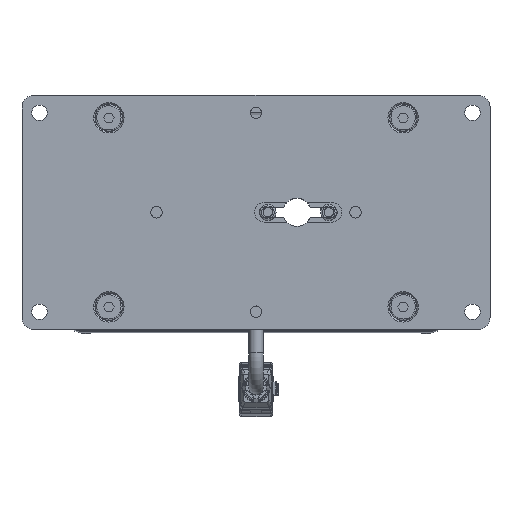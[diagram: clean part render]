
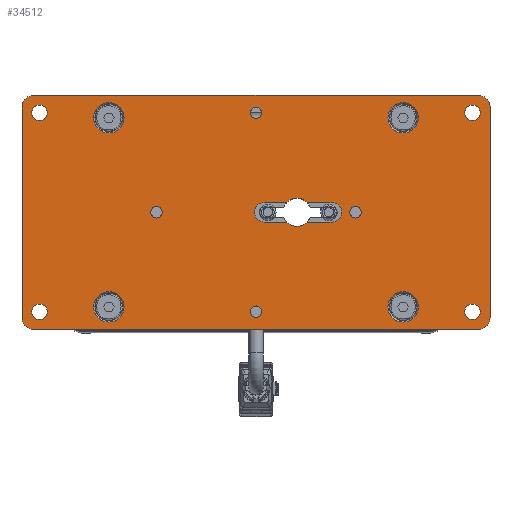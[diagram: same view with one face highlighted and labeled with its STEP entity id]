
A CAD part, top view. The second image highlights one B-rep face of the part: STEP entity #34512.
In plain terms, the highlighted planar face has unit normal (0, 0, 1).
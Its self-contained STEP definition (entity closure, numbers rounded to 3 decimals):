
#1287=LINE('',#47158,#3759);
#1288=LINE('',#47162,#3760);
#1289=LINE('',#47166,#3761);
#1290=LINE('',#47170,#3762);
#1291=LINE('',#47171,#3763);
#1292=LINE('',#47176,#3764);
#1293=LINE('',#47180,#3765);
#1294=LINE('',#47181,#3766);
#3759=VECTOR('',#39393,1000.);
#3760=VECTOR('',#39396,1000.);
#3761=VECTOR('',#39399,1000.);
#3762=VECTOR('',#39402,1000.);
#3763=VECTOR('',#39403,1000.);
#3764=VECTOR('',#39406,1000.);
#3765=VECTOR('',#39409,1000.);
#3766=VECTOR('',#39410,1000.);
#6711=ORIENTED_EDGE('',*,*,#14155,.F.);
#6712=ORIENTED_EDGE('',*,*,#14156,.F.);
#6713=ORIENTED_EDGE('',*,*,#14157,.F.);
#6714=ORIENTED_EDGE('',*,*,#14158,.F.);
#6715=ORIENTED_EDGE('',*,*,#14159,.T.);
#6716=ORIENTED_EDGE('',*,*,#14160,.T.);
#6717=ORIENTED_EDGE('',*,*,#14161,.T.);
#6718=ORIENTED_EDGE('',*,*,#14162,.T.);
#6719=ORIENTED_EDGE('',*,*,#14163,.F.);
#6720=ORIENTED_EDGE('',*,*,#14164,.F.);
#6721=ORIENTED_EDGE('',*,*,#14165,.F.);
#6722=ORIENTED_EDGE('',*,*,#14166,.F.);
#6723=ORIENTED_EDGE('',*,*,#14167,.T.);
#6724=ORIENTED_EDGE('',*,*,#14168,.T.);
#6725=ORIENTED_EDGE('',*,*,#14169,.T.);
#6726=ORIENTED_EDGE('',*,*,#14170,.T.);
#6727=ORIENTED_EDGE('',*,*,#14171,.T.);
#6728=ORIENTED_EDGE('',*,*,#14172,.T.);
#6729=ORIENTED_EDGE('',*,*,#14173,.T.);
#6730=ORIENTED_EDGE('',*,*,#14174,.T.);
#6731=ORIENTED_EDGE('',*,*,#14175,.F.);
#6732=ORIENTED_EDGE('',*,*,#14176,.T.);
#6733=ORIENTED_EDGE('',*,*,#14177,.F.);
#6734=ORIENTED_EDGE('',*,*,#14178,.T.);
#6735=ORIENTED_EDGE('',*,*,#14179,.T.);
#6736=ORIENTED_EDGE('',*,*,#14148,.T.);
#6737=ORIENTED_EDGE('',*,*,#14180,.T.);
#6738=ORIENTED_EDGE('',*,*,#14181,.T.);
#14148=EDGE_CURVE('',#17939,#17937,#20417,.T.);
#14155=EDGE_CURVE('',#17945,#17945,#20421,.T.);
#14156=EDGE_CURVE('',#17946,#17946,#20422,.T.);
#14157=EDGE_CURVE('',#17947,#17947,#20423,.T.);
#14158=EDGE_CURVE('',#17948,#17948,#20424,.T.);
#14159=EDGE_CURVE('',#17949,#17949,#20425,.T.);
#14160=EDGE_CURVE('',#17950,#17950,#20426,.T.);
#14161=EDGE_CURVE('',#17951,#17951,#20427,.T.);
#14162=EDGE_CURVE('',#17952,#17952,#20428,.T.);
#14163=EDGE_CURVE('',#17953,#17953,#20429,.T.);
#14164=EDGE_CURVE('',#17954,#17954,#20430,.T.);
#14165=EDGE_CURVE('',#17955,#17955,#20431,.T.);
#14166=EDGE_CURVE('',#17956,#17956,#20432,.T.);
#14167=EDGE_CURVE('',#17957,#17958,#20433,.T.);
#14168=EDGE_CURVE('',#17958,#17959,#1287,.T.);
#14169=EDGE_CURVE('',#17959,#17960,#20434,.T.);
#14170=EDGE_CURVE('',#17960,#17961,#1288,.T.);
#14171=EDGE_CURVE('',#17961,#17962,#20435,.T.);
#14172=EDGE_CURVE('',#17962,#17963,#1289,.T.);
#14173=EDGE_CURVE('',#17963,#17964,#20436,.T.);
#14174=EDGE_CURVE('',#17964,#17957,#1290,.T.);
#14175=EDGE_CURVE('',#17965,#17966,#1291,.T.);
#14176=EDGE_CURVE('',#17965,#17967,#20437,.T.);
#14177=EDGE_CURVE('',#17968,#17967,#1292,.T.);
#14178=EDGE_CURVE('',#17968,#17969,#20438,.T.);
#14179=EDGE_CURVE('',#17969,#17939,#1293,.T.);
#14180=EDGE_CURVE('',#17937,#17970,#1294,.T.);
#14181=EDGE_CURVE('',#17970,#17966,#20439,.T.);
#17937=VERTEX_POINT('',#47115);
#17939=VERTEX_POINT('',#47118);
#17945=VERTEX_POINT('',#47132);
#17946=VERTEX_POINT('',#47134);
#17947=VERTEX_POINT('',#47136);
#17948=VERTEX_POINT('',#47138);
#17949=VERTEX_POINT('',#47140);
#17950=VERTEX_POINT('',#47142);
#17951=VERTEX_POINT('',#47144);
#17952=VERTEX_POINT('',#47146);
#17953=VERTEX_POINT('',#47148);
#17954=VERTEX_POINT('',#47150);
#17955=VERTEX_POINT('',#47152);
#17956=VERTEX_POINT('',#47154);
#17957=VERTEX_POINT('',#47156);
#17958=VERTEX_POINT('',#47157);
#17959=VERTEX_POINT('',#47159);
#17960=VERTEX_POINT('',#47161);
#17961=VERTEX_POINT('',#47163);
#17962=VERTEX_POINT('',#47165);
#17963=VERTEX_POINT('',#47167);
#17964=VERTEX_POINT('',#47169);
#17965=VERTEX_POINT('',#47172);
#17966=VERTEX_POINT('',#47173);
#17967=VERTEX_POINT('',#47175);
#17968=VERTEX_POINT('',#47177);
#17969=VERTEX_POINT('',#47179);
#17970=VERTEX_POINT('',#47182);
#20417=CIRCLE('',#36206,6.);
#20421=CIRCLE('',#36211,2.459);
#20422=CIRCLE('',#36212,2.459);
#20423=CIRCLE('',#36213,2.459);
#20424=CIRCLE('',#36214,2.459);
#20425=CIRCLE('',#36215,6.5);
#20426=CIRCLE('',#36216,6.5);
#20427=CIRCLE('',#36217,6.5);
#20428=CIRCLE('',#36218,6.5);
#20429=CIRCLE('',#36219,3.3);
#20430=CIRCLE('',#36220,3.3);
#20431=CIRCLE('',#36221,3.3);
#20432=CIRCLE('',#36222,3.3);
#20433=CIRCLE('',#36223,5.);
#20434=CIRCLE('',#36224,5.);
#20435=CIRCLE('',#36225,5.);
#20436=CIRCLE('',#36226,5.);
#20437=CIRCLE('',#36227,6.);
#20438=CIRCLE('',#36228,4.15);
#20439=CIRCLE('',#36229,4.15);
#21618=EDGE_LOOP('',(#6711));
#21619=EDGE_LOOP('',(#6712));
#21620=EDGE_LOOP('',(#6713));
#21621=EDGE_LOOP('',(#6714));
#21622=EDGE_LOOP('',(#6715));
#21623=EDGE_LOOP('',(#6716));
#21624=EDGE_LOOP('',(#6717));
#21625=EDGE_LOOP('',(#6718));
#21626=EDGE_LOOP('',(#6719));
#21627=EDGE_LOOP('',(#6720));
#21628=EDGE_LOOP('',(#6721));
#21629=EDGE_LOOP('',(#6722));
#21630=EDGE_LOOP('',(#6723,#6724,#6725,#6726,#6727,#6728,#6729,#6730));
#21631=EDGE_LOOP('',(#6731,#6732,#6733,#6734,#6735,#6736,#6737,#6738));
#23394=FACE_BOUND('',#21618,.T.);
#23395=FACE_BOUND('',#21619,.T.);
#23396=FACE_BOUND('',#21620,.T.);
#23397=FACE_BOUND('',#21621,.T.);
#23398=FACE_BOUND('',#21622,.T.);
#23399=FACE_BOUND('',#21623,.T.);
#23400=FACE_BOUND('',#21624,.T.);
#23401=FACE_BOUND('',#21625,.T.);
#23402=FACE_BOUND('',#21626,.T.);
#23403=FACE_BOUND('',#21627,.T.);
#23404=FACE_BOUND('',#21628,.T.);
#23405=FACE_BOUND('',#21629,.T.);
#23406=FACE_BOUND('',#21630,.T.);
#23407=FACE_BOUND('',#21631,.T.);
#25070=PLANE('',#36210);
#34512=ADVANCED_FACE('',(#23394,#23395,#23396,#23397,#23398,#23399,#23400,
#23401,#23402,#23403,#23404,#23405,#23406,#23407),#25070,.T.);
#36206=AXIS2_PLACEMENT_3D('',#47117,#39354,#39355);
#36210=AXIS2_PLACEMENT_3D('',#47130,#39365,#39366);
#36211=AXIS2_PLACEMENT_3D('',#47131,#39367,#39368);
#36212=AXIS2_PLACEMENT_3D('',#47133,#39369,#39370);
#36213=AXIS2_PLACEMENT_3D('',#47135,#39371,#39372);
#36214=AXIS2_PLACEMENT_3D('',#47137,#39373,#39374);
#36215=AXIS2_PLACEMENT_3D('',#47139,#39375,#39376);
#36216=AXIS2_PLACEMENT_3D('',#47141,#39377,#39378);
#36217=AXIS2_PLACEMENT_3D('',#47143,#39379,#39380);
#36218=AXIS2_PLACEMENT_3D('',#47145,#39381,#39382);
#36219=AXIS2_PLACEMENT_3D('',#47147,#39383,#39384);
#36220=AXIS2_PLACEMENT_3D('',#47149,#39385,#39386);
#36221=AXIS2_PLACEMENT_3D('',#47151,#39387,#39388);
#36222=AXIS2_PLACEMENT_3D('',#47153,#39389,#39390);
#36223=AXIS2_PLACEMENT_3D('',#47155,#39391,#39392);
#36224=AXIS2_PLACEMENT_3D('',#47160,#39394,#39395);
#36225=AXIS2_PLACEMENT_3D('',#47164,#39397,#39398);
#36226=AXIS2_PLACEMENT_3D('',#47168,#39400,#39401);
#36227=AXIS2_PLACEMENT_3D('',#47174,#39404,#39405);
#36228=AXIS2_PLACEMENT_3D('',#47178,#39407,#39408);
#36229=AXIS2_PLACEMENT_3D('',#47183,#39411,#39412);
#39354=DIRECTION('',(0.,0.,-1.));
#39355=DIRECTION('',(1.,0.,0.));
#39365=DIRECTION('',(0.,0.,1.));
#39366=DIRECTION('',(1.,0.,0.));
#39367=DIRECTION('',(0.,0.,1.));
#39368=DIRECTION('',(1.,0.,0.));
#39369=DIRECTION('',(0.,0.,1.));
#39370=DIRECTION('',(1.,0.,0.));
#39371=DIRECTION('',(0.,0.,1.));
#39372=DIRECTION('',(1.,0.,0.));
#39373=DIRECTION('',(0.,0.,1.));
#39374=DIRECTION('',(1.,0.,0.));
#39375=DIRECTION('',(0.,0.,-1.));
#39376=DIRECTION('',(1.,0.,0.));
#39377=DIRECTION('',(0.,0.,-1.));
#39378=DIRECTION('',(1.,0.,0.));
#39379=DIRECTION('',(0.,0.,-1.));
#39380=DIRECTION('',(1.,0.,0.));
#39381=DIRECTION('',(0.,0.,-1.));
#39382=DIRECTION('',(1.,0.,0.));
#39383=DIRECTION('',(0.,0.,1.));
#39384=DIRECTION('',(1.,0.,0.));
#39385=DIRECTION('',(0.,0.,1.));
#39386=DIRECTION('',(1.,0.,0.));
#39387=DIRECTION('',(0.,0.,1.));
#39388=DIRECTION('',(1.,0.,0.));
#39389=DIRECTION('',(0.,0.,1.));
#39390=DIRECTION('',(1.,0.,0.));
#39391=DIRECTION('',(0.,0.,1.));
#39392=DIRECTION('',(1.,0.,0.));
#39393=DIRECTION('',(1.,0.,0.));
#39394=DIRECTION('',(0.,0.,1.));
#39395=DIRECTION('',(-1.,0.,0.));
#39396=DIRECTION('',(0.,1.,0.));
#39397=DIRECTION('',(0.,0.,1.));
#39398=DIRECTION('',(1.,0.,0.));
#39399=DIRECTION('',(-1.,0.,0.));
#39400=DIRECTION('',(0.,0.,1.));
#39401=DIRECTION('',(1.,0.,0.));
#39402=DIRECTION('',(0.,-1.,0.));
#39403=DIRECTION('',(1.,0.,0.));
#39404=DIRECTION('',(0.,0.,-1.));
#39405=DIRECTION('',(1.,0.,0.));
#39406=DIRECTION('',(1.,0.,0.));
#39407=DIRECTION('',(0.,0.,-1.));
#39408=DIRECTION('',(0.,-1.,0.));
#39409=DIRECTION('',(1.,0.,0.));
#39410=DIRECTION('',(1.,0.,0.));
#39411=DIRECTION('',(0.,0.,-1.));
#39412=DIRECTION('',(0.,1.,0.));
#47115=CARTESIAN_POINT('',(21.833,4.15,8.));
#47117=CARTESIAN_POINT('',(17.5,0.,8.));
#47118=CARTESIAN_POINT('',(13.167,4.15,8.));
#47130=CARTESIAN_POINT('',(-95.,-45.,8.));
#47131=CARTESIAN_POINT('',(0.,-42.5,8.));
#47132=CARTESIAN_POINT('',(2.459,-42.5,8.));
#47133=CARTESIAN_POINT('',(42.5,0.,8.));
#47134=CARTESIAN_POINT('',(44.959,0.,8.));
#47135=CARTESIAN_POINT('',(0.,42.5,8.));
#47136=CARTESIAN_POINT('',(2.459,42.5,8.));
#47137=CARTESIAN_POINT('',(-42.5,0.,8.));
#47138=CARTESIAN_POINT('',(-40.042,0.,8.));
#47139=CARTESIAN_POINT('',(-62.9,-40.4,8.));
#47140=CARTESIAN_POINT('',(-56.4,-40.4,8.));
#47141=CARTESIAN_POINT('',(62.9,-40.4,8.));
#47142=CARTESIAN_POINT('',(69.4,-40.4,8.));
#47143=CARTESIAN_POINT('',(62.9,40.4,8.));
#47144=CARTESIAN_POINT('',(69.4,40.4,8.));
#47145=CARTESIAN_POINT('',(-62.9,40.4,8.));
#47146=CARTESIAN_POINT('',(-56.4,40.4,8.));
#47147=CARTESIAN_POINT('',(-92.5,-42.5,8.));
#47148=CARTESIAN_POINT('',(-89.2,-42.5,8.));
#47149=CARTESIAN_POINT('',(92.5,-42.5,8.));
#47150=CARTESIAN_POINT('',(95.8,-42.5,8.));
#47151=CARTESIAN_POINT('',(92.5,42.5,8.));
#47152=CARTESIAN_POINT('',(95.8,42.5,8.));
#47153=CARTESIAN_POINT('',(-92.5,42.5,8.));
#47154=CARTESIAN_POINT('',(-89.2,42.5,8.));
#47155=CARTESIAN_POINT('',(-95.,-45.,8.));
#47156=CARTESIAN_POINT('',(-100.,-45.,8.));
#47157=CARTESIAN_POINT('',(-95.,-50.,8.));
#47158=CARTESIAN_POINT('',(-95.,-50.,8.));
#47159=CARTESIAN_POINT('',(95.,-50.,8.));
#47160=CARTESIAN_POINT('',(95.,-45.,8.));
#47161=CARTESIAN_POINT('',(100.,-45.,8.));
#47162=CARTESIAN_POINT('',(100.,-45.,8.));
#47163=CARTESIAN_POINT('',(100.,45.,8.));
#47164=CARTESIAN_POINT('',(95.,45.,8.));
#47165=CARTESIAN_POINT('',(95.,50.,8.));
#47166=CARTESIAN_POINT('',(95.,50.,8.));
#47167=CARTESIAN_POINT('',(-95.,50.,8.));
#47168=CARTESIAN_POINT('',(-95.,45.,8.));
#47169=CARTESIAN_POINT('',(-100.,45.,8.));
#47170=CARTESIAN_POINT('',(-100.,45.,8.));
#47171=CARTESIAN_POINT('',(3.5,-4.15,8.));
#47172=CARTESIAN_POINT('',(21.833,-4.15,8.));
#47173=CARTESIAN_POINT('',(32.5,-4.15,8.));
#47174=CARTESIAN_POINT('',(17.5,0.,8.));
#47175=CARTESIAN_POINT('',(13.167,-4.15,8.));
#47176=CARTESIAN_POINT('',(3.5,-4.15,8.));
#47177=CARTESIAN_POINT('',(3.5,-4.15,8.));
#47178=CARTESIAN_POINT('',(3.5,0.,8.));
#47179=CARTESIAN_POINT('',(3.5,4.15,8.));
#47180=CARTESIAN_POINT('',(3.5,4.15,8.));
#47181=CARTESIAN_POINT('',(3.5,4.15,8.));
#47182=CARTESIAN_POINT('',(32.5,4.15,8.));
#47183=CARTESIAN_POINT('',(32.5,0.,8.));
